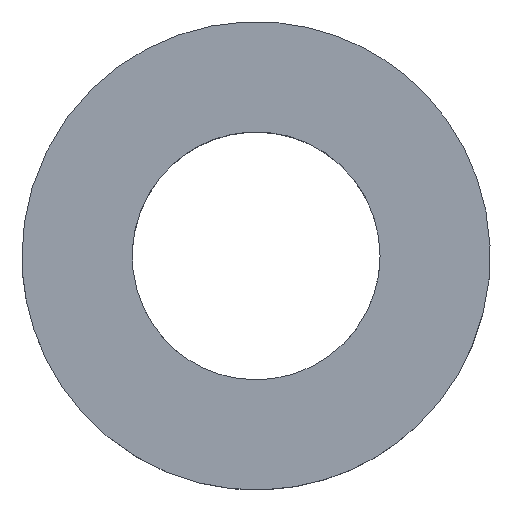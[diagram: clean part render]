
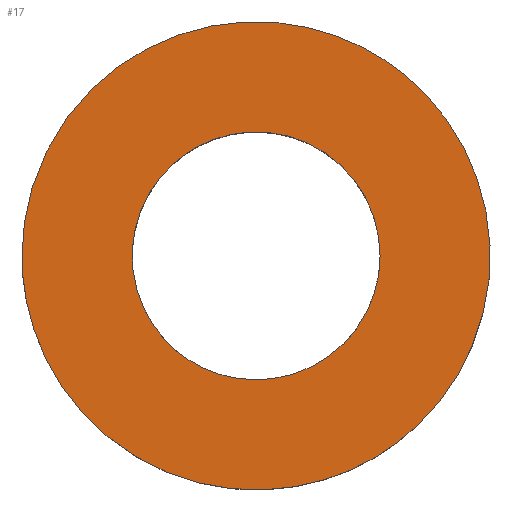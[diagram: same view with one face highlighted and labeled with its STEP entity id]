
A CAD part, top view. The second image highlights one B-rep face of the part: STEP entity #17.
In plain terms, the highlighted free-form (B-spline) face has degree [1, 1] with [2, 2] control points.
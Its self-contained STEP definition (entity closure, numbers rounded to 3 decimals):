
#17 = ADVANCED_FACE('',(#18,#32),#46,.T.);
#18 = FACE_BOUND('',#19,.T.);
#19 = EDGE_LOOP('',(#20));
#20 = ORIENTED_EDGE('',*,*,#21,.F.);
#21 = EDGE_CURVE('',#22,#22,#24,.T.);
#22 = VERTEX_POINT('',#23);
#23 = CARTESIAN_POINT('',(1.35,0.,1.));
#24 = ( BOUNDED_CURVE() B_SPLINE_CURVE(2,(#25,#26,#27,#28,#29,#30,#31),
.UNSPECIFIED.,.T.,.F.) B_SPLINE_CURVE_WITH_KNOTS((1,2,2,2,2,1),(
    -2.094,0.,2.094,4.189,6.283,
8.378),.UNSPECIFIED.) CURVE() GEOMETRIC_REPRESENTATION_ITEM() 
RATIONAL_B_SPLINE_CURVE((1.,0.5,1.,0.5,1.,0.5,1.)) REPRESENTATION_ITEM(
  '') );
#25 = CARTESIAN_POINT('',(1.35,0.,1.));
#26 = CARTESIAN_POINT('',(1.35,2.338,1.));
#27 = CARTESIAN_POINT('',(-0.675,1.169,1.));
#28 = CARTESIAN_POINT('',(-2.7,0.,1.));
#29 = CARTESIAN_POINT('',(-0.675,-1.169,1.));
#30 = CARTESIAN_POINT('',(1.35,-2.338,1.));
#31 = CARTESIAN_POINT('',(1.35,0.,1.));
#32 = FACE_BOUND('',#33,.T.);
#33 = EDGE_LOOP('',(#34));
#34 = ORIENTED_EDGE('',*,*,#35,.F.);
#35 = EDGE_CURVE('',#36,#36,#38,.T.);
#36 = VERTEX_POINT('',#37);
#37 = CARTESIAN_POINT('',(-2.55,0.,1.));
#38 = ( BOUNDED_CURVE() B_SPLINE_CURVE(2,(#39,#40,#41,#42,#43,#44,#45),
.UNSPECIFIED.,.T.,.F.) B_SPLINE_CURVE_WITH_KNOTS((1,2,2,2,2,1),(
    -2.094,0.,2.094,4.189,6.283,
8.378),.UNSPECIFIED.) CURVE() GEOMETRIC_REPRESENTATION_ITEM() 
RATIONAL_B_SPLINE_CURVE((1.,0.5,1.,0.5,1.,0.5,1.)) REPRESENTATION_ITEM(
  '') );
#39 = CARTESIAN_POINT('',(-2.55,0.,1.));
#40 = CARTESIAN_POINT('',(-2.55,4.417,1.));
#41 = CARTESIAN_POINT('',(1.275,2.208,1.));
#42 = CARTESIAN_POINT('',(5.1,0.,1.));
#43 = CARTESIAN_POINT('',(1.275,-2.208,1.));
#44 = CARTESIAN_POINT('',(-2.55,-4.417,1.));
#45 = CARTESIAN_POINT('',(-2.55,0.,1.));
#46 = B_SPLINE_SURFACE_WITH_KNOTS('',1,1,(
    (#47,#48)
    ,(#49,#50
    )),.UNSPECIFIED.,.F.,.F.,.F.,(2,2),(2,2),(0.,5.1),(
    -2.55,2.55),.PIECEWISE_BEZIER_KNOTS.);
#47 = CARTESIAN_POINT('',(-2.55,-2.55,1.));
#48 = CARTESIAN_POINT('',(-2.55,2.55,1.));
#49 = CARTESIAN_POINT('',(2.55,-2.55,1.));
#50 = CARTESIAN_POINT('',(2.55,2.55,1.));
